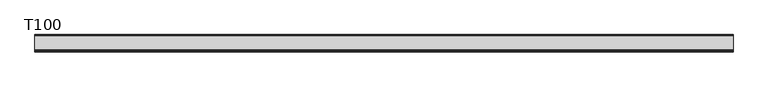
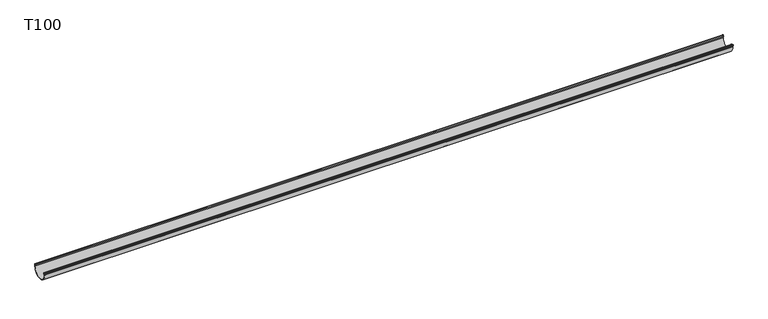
"""IFC4 building model written with IfcOpenShell, lengths in millimetres: proxy geometry, GROVIK_Gutter_Straight : T100."""

from ifc_helpers import new_model, si_unit, point, frame, frame_2d, origin, place, context, project, spatial, polyline, circle_curve, trimmed, segment, composite_curve, outline, extrude, source, transform, mapped, element, save


def t100_625066b8(model_context):
    return source(origin(), model_context, "Body", "SweptSolid", [
        extrude(outline(composite_curve([segment(polyline([(95.6785725, 12.9222473), (94.8220658, 3.1323306), (104.7816977, 1.3761787), (105.2998033, 7.2981526), (98.3413035, 6.0711814), (98.1850202, 6.9575084), (105.0151773, 8.1618494)]), True, "CONTINUOUS"), segment(trimmed(circle_curve(frame_2d((105.1888255, 7.1770416)), 1.0), [point((105.0151773, 8.1618494))], [point((106.1850202, 7.0898858))], False, "CARTESIAN"), True, "CONTINUOUS"), segment(polyline([(106.1850202, 7.0898858), (105.6885136, 1.4147892)]), True, "CONTINUOUS"), segment(trimmed(circle_curve(frame_2d((104.6923189, 1.501945)), 1.0), [point((105.6885136, 1.4147892))], [point((104.6051631, 0.5057503))], False, "CARTESIAN"), True, "CONTINUOUS"), segment(polyline([(104.6051631, 0.5057503), (94.7570856, 2.242232)]), True, "CONTINUOUS"), segment(trimmed(circle_curve(frame_2d((94.9307338, 3.2270397)), 1.0), [point((94.7570856, 2.242232))], [point((93.9345391, 3.3141955))], False, "CARTESIAN"), True, "CONTINUOUS"), segment(polyline([(93.9345391, 3.3141955), (94.7746841, 12.9170968)]), True, "CONTINUOUS"), segment(trimmed(circle_curve(frame_2d((95.683723, 12.9170968)), 0.909039), [point((94.7746841, 12.9170968))], [point((95.683723, 13.8261357))], False, "CARTESIAN"), True, "CONTINUOUS"), segment(polyline([(95.683723, 13.8261357), (100.9, 14.2825008), (100.9, 16.3578028)]), True, "CONTINUOUS"), segment(trimmed(circle_curve(frame_2d((50.9, 16.3578028)), 50.0), [point((100.9, 16.3578028))], [point((0.9, 16.3578028))], True, "CARTESIAN"), True, "CONTINUOUS"), segment(polyline([(0.9, 16.3578028), (0.9, 1.3578028), (5.6494755, 5.343086), (6.2279844, 4.6536459), (0.8213938, 0.1169778)]), True, "CONTINUOUS"), segment(trimmed(circle_curve(frame_2d((0.5, 0.5000001)), 0.5), [point((0.8213938, 0.1169778))], [point((0.0, 0.5000001))], False, "CARTESIAN"), True, "CONTINUOUS"), segment(polyline([(0.0, 0.5000001), (0.0, 16.3578028)]), True, "CONTINUOUS"), segment(trimmed(circle_curve(frame_2d((50.9, 16.3578028)), 50.9), [point((0.0, 16.3578028))], [point((101.8, 16.3578028))], False, "CARTESIAN"), True, "CONTINUOUS"), segment(polyline([(101.8, 16.3578028), (101.8, 14.374134)]), True, "CONTINUOUS"), segment(trimmed(circle_curve(frame_2d((100.8, 14.374134)), 1.0), [point((101.8, 14.374134))], [point((100.8871557, 13.3779393))], False, "CARTESIAN"), True, "CONTINUOUS"), segment(polyline([(100.8871557, 13.3779393), (95.6785725, 12.9222473)]), True, "CONTINUOUS")], self_intersect=False)), frame((45.0, 0.0, 0.0), z_axis=(0.9999995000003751, 0.0, 0.0009999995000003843), x_axis=(0.0, -1.0, 0.0)), (0.0, 0.0, 1.0), 4248.6067491),
    ])


if __name__ == "__main__":
    model = new_model("IFC4")
    model_context = context("Model", 3, world=origin())
    ifc_project = project(units=[si_unit("LENGTHUNIT", "METRE", prefix="MILLI")], contexts=[model_context])
    site = spatial("IfcSite", under=ifc_project)
    building = spatial("IfcBuilding", under=site)
    placement = place(None, origin())
    t100_shape = t100_625066b8(model_context)
    element("IfcBuildingElementProxy", 1, Name="GROVIK_Gutter_Straight : T100", ObjectType="GROVIK_Gutter_Straight : T100", at=placement, inside=building, context=model_context, shape_type="MappedRepresentation", body=[
        mapped(t100_shape, transform((0.0, 0.0, 0.0), x_axis=(1.0, 0.0, 0.0), y_axis=(0.0, 1.0, 0.0), z_axis=(0.0, 0.0, 1.0))),
    ])
    save(model, "model.ifc")
